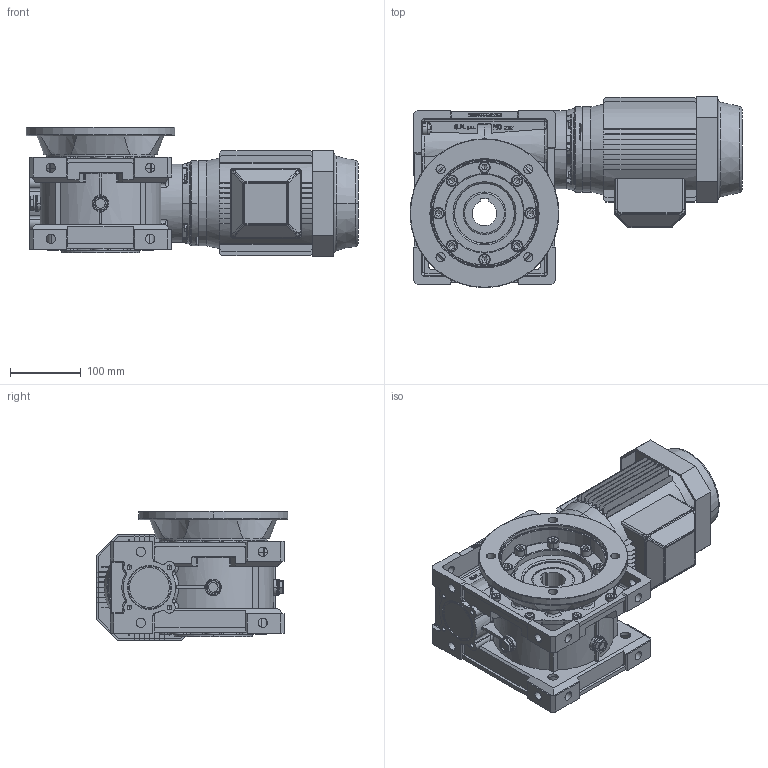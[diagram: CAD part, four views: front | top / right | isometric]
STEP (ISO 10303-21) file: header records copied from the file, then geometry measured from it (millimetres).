
FILE_DESCRIPTION((''),'2;1');
FILE_NAME('F:\Ghirri\3D\MV_V90\stp\MVFU90_B14-80.stp','2005-06-13T20:12:51',('Administrator'),(''),'Autodesk Inventor 9','Autodesk Inventor 9','');
FILE_SCHEMA(('AUTOMOTIVE_DESIGN { 1 0 10303 214 1 1 1 1 }'));
Length unit declared in the file: millimetre
Products named in the file (17): MVFU90_B14-80; 4009001-A0; 4009004-A0; TCCE-8X20-ribassata; 4009008-A0; UNI-ISO 6194-1 (4) Tipo4 60 x  85 x  8; Capp-62-7; Guarnizione-tappo-3-8-gas; Tappo-3-8-gas-nero; Paraolio-40-68-7; motori B14 80; 4011006-A0; UNI 5739  (Filetto regolare) M6 x 20; FU_MV90; UNI 5931  (Filetto regolare) M 10 x  25
Assembly tree (38 placements, depth 3):
  MVFU90_B14-80
    4009001-A0
    4009004-A0
    TCCE-8X20-ribassata  x8
    4009008-A0
    UNI-ISO 6194-1 (4) Tipo4 60 x  85 x  8  x2
    Capp-62-7
    Guarnizione-tappo-3-8-gas  x3
    Tappo-3-8-gas-nero  x3
    Paraolio-40-68-7
    motori B14 80
    4011006-A0
      4011006-A0
      UNI 5739  (Filetto regolare) M6 x 20  x4
    FU_MV90
      FU_MV90
      UNI 5931  (Filetto regolare) M 10 x  25  x8
Bounding box: 468 x 270 x 182 mm (x, y, z)
Volume: 7697918.6 mm3; surface area: 957029.2 mm2
Topology: 36 solids, 39 shells, 3908 faces, 10209 edges, 6512 vertices
Faces by surface type: plane 1554, cylinder 1152, bspline 921, cone 195, torus 82, sphere 4
Entity records: 126490 total; most frequent: CARTESIAN_POINT 44213, ORIENTED_EDGE 17892, DIRECTION 16128, EDGE_CURVE 8946, VERTEX_POINT 5800, AXIS2_PLACEMENT_3D 5623, VECTOR 4882, LINE 4882
